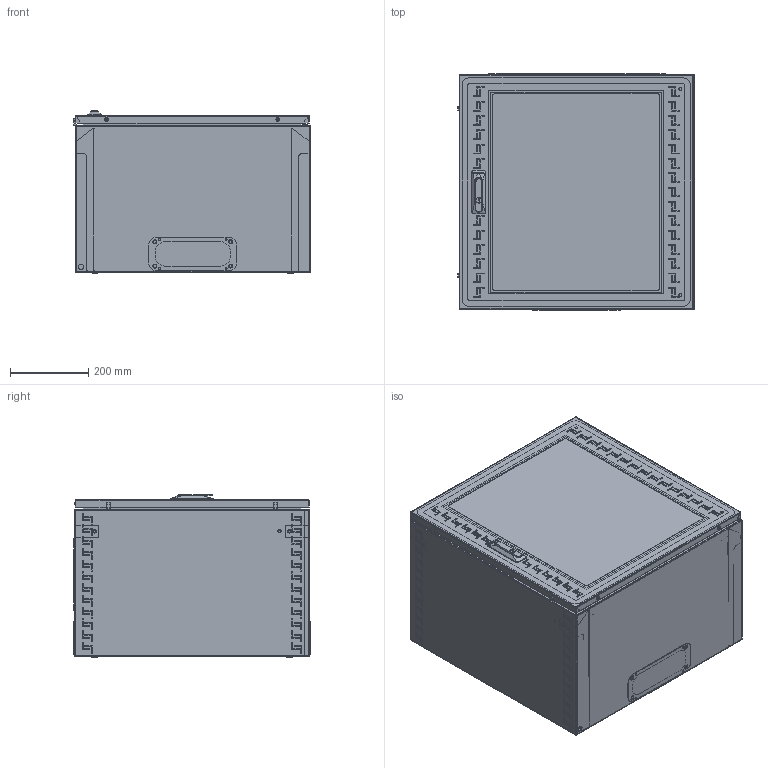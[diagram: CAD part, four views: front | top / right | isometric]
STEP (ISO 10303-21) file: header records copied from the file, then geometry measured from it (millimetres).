
FILE_DESCRIPTION (( 'STEP AP203' ), '1' );
FILE_NAME ('R5STI1240GS.STEP', '2019-07-16T12:02:30', ( '' ), ( '' ), 'SwSTEP 2.0', 'SolidWorks 2017', '' );
FILE_SCHEMA (( 'CONFIG_CONTROL_DESIGN' ));
Length unit declared in the file: millimetre
Products named in the file (40): RB.0374.03.00.0 CÁ; MirrorMirrorRB.0374.00.01.0_-00 (400)<As Machined><As Machined>; Handle 308 Mesan; Glass STI_0600x0600; AC00C061_AC00C061; RB.0374.04.01.0; AC00C380; RB.0374.06.00.0 捘_-05 (600x600 glass); Glue STI_0600x0600; M6-DIN 6923 (CM100600)_straight; RB.0374.04.00.0 CÁ; RB.0374.01.01.0_-01 (600å600å400); R5STI1240GS; RB.0374.00.01.0_-00 (400); Handle Mesan (part 1); RB.0374.02.00.0 C縫-01 (600x600x400); RB.0048.02.01.0; RB.0374.01.02.0_-01 (600x600); RB.0374.00.02.0_-01 (12U); Handle Mesan (part 2); RB.0374.05.01.0_-05 (600x600 glass); AC00C399; Ì6õ20-A5100001_straight; RB.0374.00.02.0 mirror_-05 (12U); Catch Mesan; AC00C398; M4x8 GOST 17475-80 (DIN 965)_straight; Ì6õ12-A5100231_straight; M6x12-DIN 6921_stright; Handle Mesan (part 3); RB.0374.05.00.0 捘_-05 (600x600 glass); RB.0374.01.00.0 C縫-01 (600x600x400); AC00C401_AC00C401; 4.8x13 DIN 7981 (R5A07)_straight; AC00C112; RB.0374.03.01.0; MirrorRB.0374.00.01.0_-00 (400)<As Machined>; M6x10-A1100004_straight; PF 7,5x15 door STI_0600å0600; AC00C383
Assembly tree (102 placements, depth 4):
  R5STI1240GS
    RB.0374.02.00.0 C縫-01 (600x600x400)
      RB.0374.01.00.0 C縫-01 (600x600x400)
        RB.0374.01.01.0_-01 (600å600å400)
        RB.0374.01.02.0_-01 (600x600)
        Ì6õ20-A5100001_straight  x4
        Ì6õ12-A5100231_straight  x6
      RB.0374.03.00.0 CÁ
        RB.0374.03.01.0
        Ì6õ12-A5100231_straight  x4
      RB.0374.04.00.0 CÁ  x2
        RB.0374.04.01.0
        Ì6õ12-A5100231_straight
      RB.0048.02.01.0  x2
      AC00C399  x2
      M4x8 GOST 17475-80 (DIN 965)_straight  x4
      AC00C383  x2
      AC00C061_AC00C061  x2
      M6-DIN 6923 (CM100600)_straight  x12
    RB.0374.06.00.0 捘_-05 (600x600 glass)
      RB.0374.05.00.0 捘_-05 (600x600 glass)
        RB.0374.05.01.0_-05 (600x600 glass)
        AC00C398  x2
        Ì6õ12-A5100231_straight  x2
      AC00C112  x4
      AC00C061_AC00C061  x2
      PF 7,5x15 door STI_0600å0600
      Glass STI_0600x0600
      Glue STI_0600x0600
      Handle 308 Mesan
        Handle Mesan (part 1)
        Handle Mesan (part 2)
        Catch Mesan
        Handle Mesan (part 3)
        4.8x13 DIN 7981 (R5A07)_straight  x3
        M6x10-A1100004_straight
    RB.0374.00.01.0_-00 (400)
    RB.0374.00.02.0_-01 (12U)
    RB.0374.00.02.0 mirror_-05 (12U)
    M6x12-DIN 6921_stright  x4
    M6-DIN 6923 (CM100600)_straight  x12
    AC00C401_AC00C401  x2
    MirrorRB.0374.00.01.0_-00 (400)<As Machined>  x2
    MirrorMirrorRB.0374.00.01.0_-00 (400)<As Machined><As Machined>
    AC00C380  x2
Bounding box: 603.87 x 603 x 414.97 mm (x, y, z)
Volume: 3778501.4 mm3; surface area: 4212181.5 mm2
Topology: 142 solids, 142 shells, 5602 faces, 14329 edges, 9123 vertices
Faces by surface type: plane 3391, cylinder 1016, bspline 522, cone 473, torus 174, sphere 26
Entity records: 144703 total; most frequent: CARTESIAN_POINT 39549, ORIENTED_EDGE 21166, DIRECTION 18579, EDGE_CURVE 10583, LINE 8243, VECTOR 8243, VERTEX_POINT 6854, AXIS2_PLACEMENT_3D 5168
